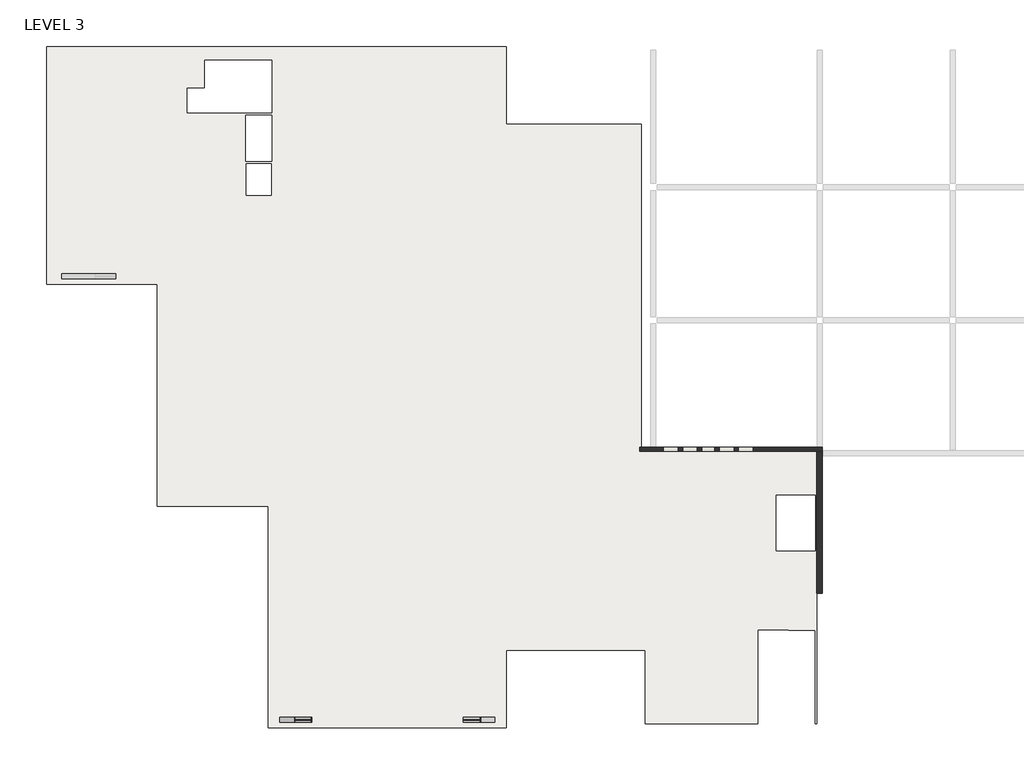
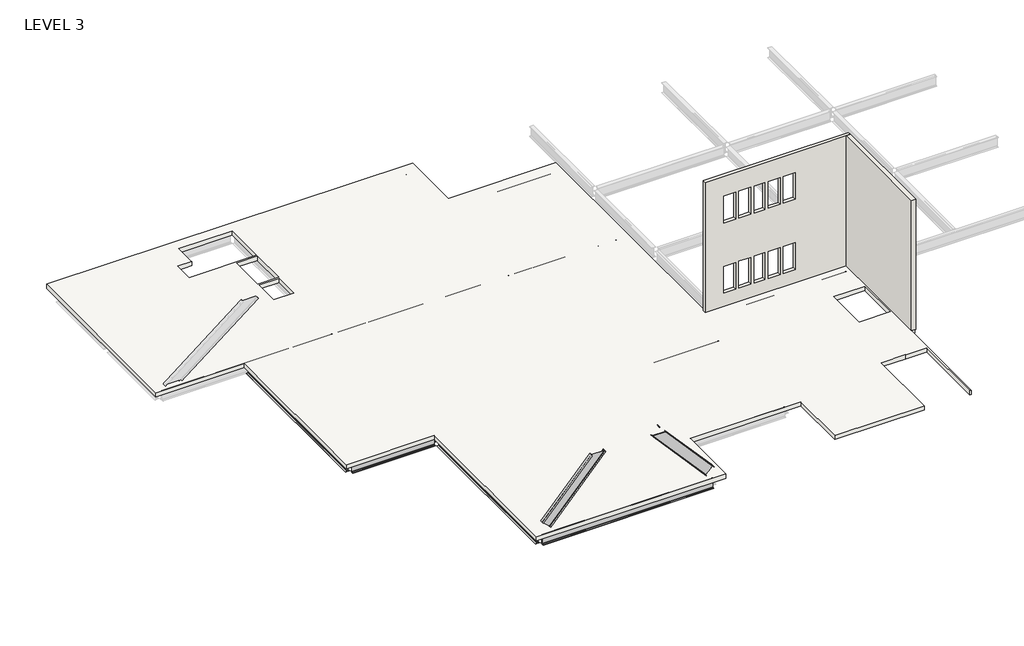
# One storey, part 1 of 2: 6 beams, 2 members, 2 walls, 1 slab.
"""IFC4 building model written with IfcOpenShell, lengths in millimetres."""

from ifc_helpers import new_model, si_unit, frame, origin, place, context, project, spatial, polyline, circle_curve, ellipse_curve, outline, extrude, faceted_brep, transform, mapped, element, save
from ifc_brep_helpers import plane_surface, revolved_surface, advanced_brep
from components import w_wide_flange_w24x68_ad03e389, w_wide_flange_w24x68_ff5f66c1, w_wide_flange_w24x68_64a19b5f, w_wide_flange_w24x68_a18b2e65, w_wide_flange_w24x68_69d7365b

model = new_model("IFC4")

# Units and contexts
model_context = context("Model", 3, world=origin())
ifc_project = project(units=[si_unit("LENGTHUNIT", "METRE", prefix="MILLI")], contexts=[model_context])

# Site, building, storey
site = spatial("IfcSite", under=ifc_project)
building = spatial("IfcBuilding", under=site)
storey = spatial("IfcBuildingStorey", under=building, Name="LEVEL 3", Elevation=8534.4)

# Beams
placement = place(None, origin())
w_wide_flange_w24x68_shape = w_wide_flange_w24x68_ad03e389(model_context)
element("IfcBeam", 1, ObjectType="W-Wide Flange : W24X68", at=placement, inside=storey, context=model_context, shape_type="MappedRepresentation", body=[
    mapped(w_wide_flange_w24x68_shape, transform((-8663.0492735, -1062.2413682, 7979.41), x_axis=(0.0, -1.0, 0.0), y_axis=(1.0, 0.0, 0.0), z_axis=(0.0, 0.0, 1.0))),
])
w_wide_flange_w24x68_2_shape = w_wide_flange_w24x68_ff5f66c1(model_context)
element("IfcBeam", 2, ObjectType="W-Wide Flange : W24X68", at=placement, inside=storey, context=model_context, shape_type="MappedRepresentation", body=[
    mapped(w_wide_flange_w24x68_2_shape, transform((-11203.0492735, -6142.2413682, 7979.41), x_axis=(1.0, 0.0, 0.0), y_axis=(0.0, 1.0, 0.0), z_axis=(0.0, 0.0, 1.0))),
])
w_wide_flange_w24x68_3_shape = w_wide_flange_w24x68_64a19b5f(model_context)
element("IfcBeam", 3, ObjectType="W-Wide Flange : W24X68", at=placement, inside=storey, context=model_context, shape_type="MappedRepresentation", body=[
    mapped(w_wide_flange_w24x68_3_shape, transform((-8663.0492735, -11222.2413682, 7979.41), x_axis=(0.0, -1.0, 0.0), y_axis=(1.0, 0.0, 0.0), z_axis=(0.0, 0.0, 1.0))),
])
element("IfcBeam", 4, ObjectType="W-Wide Flange : W24X68", at=placement, inside=storey, context=model_context, shape_type="MappedRepresentation", body=[
    mapped(w_wide_flange_w24x68_3_shape, transform((-3583.0492735, -16302.2413682, 7979.41), x_axis=(1.0, 0.0, 0.0), y_axis=(0.0, 1.0, 0.0), z_axis=(0.0, 0.0, 1.0))),
])
w_wide_flange_w24x68_4_shape = w_wide_flange_w24x68_a18b2e65(model_context)
element("IfcBeam", 5, ObjectType="W-Wide Flange : W24X68", at=placement, inside=storey, context=model_context, shape_type="MappedRepresentation", body=[
    mapped(w_wide_flange_w24x68_4_shape, transform((-13743.0492735, -1062.2413682, 7979.41), x_axis=(0.0, 1.0, 0.0), y_axis=(-1.0, 0.0, 0.0), z_axis=(0.0, 0.0, 1.0))),
])
w_wide_flange_w24x68_5_shape = w_wide_flange_w24x68_69d7365b(model_context)
element("IfcBeam", 6, ObjectType="W-Wide Flange : W24X68", at=placement, inside=storey, context=model_context, shape_type="MappedRepresentation", body=[
    mapped(w_wide_flange_w24x68_5_shape, transform((-3595.7492735, -6142.2413682, 7979.41), x_axis=(1.0, 0.0, 0.0), y_axis=(0.0, 1.0, 0.0), z_axis=(0.0, 0.0, 1.0))),
])

# Members
element("IfcMember", 7, ObjectType="W-Wide Flange : W24X68", at=placement, inside=storey, context=model_context, shape_type="AdvancedBrep", body=[
    advanced_brep(
    [(-4894.7107022, -16188.3223682, 12127.2103227), (-4894.7107022, -16273.7298682, 12127.2103227), (-4900.6468695, -16291.2749285, 12132.5720222), (-4900.6468695, -16313.2078078, 12132.5720222), (-4894.7107022, -16330.7528682, 12127.2103227), (-4894.7107022, -16416.1603682, 12127.2103227), (-4883.6837991, -16416.1603682, 12117.2505392), (-4883.6837991, -16188.3223682, 12117.2505392), (-8065.1625923, -16188.3223682, 8617.0671587), (-8054.1356891, -16188.3223682, 8607.1073752), (-8054.1356891, -16416.1603682, 8607.1073752), (-8065.1625923, -16416.1603682, 8617.0671587), (-8065.1625923, -16330.7528682, 8617.0671587), (-8082.4097998, -16307.5118682, 8632.6452816), (-8472.5925273, -16307.5118682, 8985.0683903), (-8489.8397349, -16330.7528682, 9000.6465133), (-8489.8397349, -16416.1603682, 9000.6465133), (-8500.866638, -16416.1603682, 9010.6062968), (-8500.866638, -16188.3223682, 9010.6062968), (-8489.8397349, -16188.3223682, 9000.6465133), (-8489.8397349, -16273.7298682, 9000.6465133), (-8472.5925273, -16296.9708682, 8985.0683903), (-8082.4097998, -16296.9708682, 8632.6452816), (-8065.1625923, -16273.7298682, 8617.0671587), (-4921.185647, -16296.9708682, 12132.5720222), (-5629.6860211, -16296.9708682, 12132.5720222), (-5661.0037913, -16273.7298682, 12132.5720222), (-5661.0037913, -16188.3223682, 12132.5720222), (-5681.0266279, -16188.3223682, 12132.5720222), (-5681.0266279, -16416.1603682, 12132.5720222), (-5661.0037913, -16416.1603682, 12132.5720222), (-5661.0037913, -16330.7528682, 12132.5720222), (-5629.6860211, -16307.5118682, 12132.5720222), (-4921.185647, -16307.5118682, 12132.5720222)],
    [
        (0, 1),
        (1, 2, circle_curve(frame((-4911.9579097, -16273.7298682, 12142.7884456), z_axis=(-0.6702862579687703, 0.0, -0.7421026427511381), x_axis=(0.0, -1.0000000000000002, 0.0)), 23.241)),
        (2, 3),
        (3, 4, circle_curve(frame((-4911.9579097, -16330.7528682, 12142.7884456), z_axis=(-0.6702862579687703, 0.0, -0.7421026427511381), x_axis=(0.0, -1.0000000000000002, 0.0)), 23.241)),
        (4, 5),
        (5, 6),
        (6, 7),
        (7, 0),
        (8, 9),
        (9, 10),
        (10, 11),
        (11, 12),
        (12, 13, circle_curve(frame((-8082.4097998, -16330.7528682, 8632.6452816), z_axis=(0.6702862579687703, 0.0, 0.7421026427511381), x_axis=(0.0, -1.0000000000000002, 0.0)), 23.241)),
        (13, 14),
        (14, 15, circle_curve(frame((-8472.5925273, -16330.7528682, 8985.0683903), z_axis=(0.6702862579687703, 0.0, 0.7421026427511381), x_axis=(0.0, -1.0000000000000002, 0.0)), 23.241)),
        (15, 16),
        (16, 17),
        (17, 18),
        (18, 19),
        (19, 20),
        (20, 21, circle_curve(frame((-8472.5925273, -16273.7298682, 8985.0683903), z_axis=(0.6702862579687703, 0.0, 0.7421026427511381), x_axis=(0.0, -1.0000000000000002, 0.0)), 23.241)),
        (21, 22),
        (22, 23, circle_curve(frame((-8082.4097998, -16273.7298682, 8632.6452816), z_axis=(0.6702862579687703, 0.0, 0.7421026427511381), x_axis=(0.0, -1.0000000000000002, 0.0)), 23.241)),
        (23, 8),
        (0, 8),
        (23, 1),
        (22, 24),
        (24, 2, ellipse_curve(frame((-4921.185647, -16273.7298682, 12132.5720222), z_axis=(0.0, 0.0, 1.0), x_axis=(-1.0, 0.0, 0.0)), 31.3177702, 23.241)),
        (21, 25),
        (25, 24),
        (20, 26),
        (26, 25, ellipse_curve(frame((-5629.6860211, -16273.7298682, 12132.5720222), z_axis=(0.0, 0.0, 1.0), x_axis=(-1.0, 0.0, 0.0)), 31.3177702, 23.241)),
        (19, 27),
        (27, 26),
        (18, 28),
        (28, 27),
        (17, 29),
        (29, 28),
        (16, 30),
        (30, 29),
        (15, 31),
        (31, 30),
        (14, 32),
        (32, 31, ellipse_curve(frame((-5629.6860211, -16330.7528682, 12132.5720222), z_axis=(0.0, 0.0, 1.0), x_axis=(-1.0, 0.0, 0.0)), 31.3177702, 23.241)),
        (13, 33),
        (33, 32),
        (12, 4),
        (3, 33, ellipse_curve(frame((-4921.185647, -16330.7528682, 12132.5720222), z_axis=(0.0, 0.0, 1.0), x_axis=(-1.0, 0.0, 0.0)), 31.3177702, 23.241)),
        (11, 5),
        (10, 6),
        (9, 7),
    ],
    [
        plane_surface(frame((-5107.0492735, -16302.2413682, 12319.0), z_axis=(0.6702862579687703, 0.0, 0.7421026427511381), x_axis=(-0.7421026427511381, 0.0, 0.6702862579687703))),
        plane_surface(frame((-8277.5011636, -16302.2413682, 8808.856836), z_axis=(-0.6702862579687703, 0.0, -0.7421026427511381), x_axis=(-0.7421026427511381, 0.0, 0.6702862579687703))),
        plane_surface(frame((-4894.7107022, -16188.3223682, 12127.2103227), z_axis=(-0.7421026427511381, 0.0, 0.6702862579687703), x_axis=(-0.6702862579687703, 0.0, -0.7421026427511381))),
        revolved_surface(polyline([(-8082.409799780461, -16296.9708682, 8632.645281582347), (-4907.115084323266, -16296.9708682, 12148.15014512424)]), (-4911.9579097, -16273.7298682, 12142.7884456), (-0.6702862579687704, 0.0, -0.7421026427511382)),
        plane_surface(frame((-4911.9579097, -16296.9708682, 12142.7884456), z_axis=(0.0, 1.0000000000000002, 0.0), x_axis=(-0.6702862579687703, 0.0, -0.7421026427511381))),
        revolved_surface(polyline([(-8472.592527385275, -16296.9708682, 8985.06839037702), (-5615.615458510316, -16296.9708682, 12148.150145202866)]), (-5302.1406373, -16273.7298682, 12495.2115544), (-0.6702862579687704, 0.0, -0.7421026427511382)),
        plane_surface(frame((-5319.3878448, -16273.7298682, 12510.7896773), z_axis=(0.7421026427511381, 0.0, -0.6702862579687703), x_axis=(-0.6702862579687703, 0.0, -0.7421026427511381))),
        plane_surface(frame((-5319.3878448, -16188.3223682, 12510.7896773), z_axis=(0.0, 1.0000000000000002, 0.0), x_axis=(-0.6702862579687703, 0.0, -0.7421026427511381))),
        plane_surface(frame((-5330.4147479, -16188.3223682, 12520.7494608), z_axis=(-0.7421026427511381, 0.0, 0.6702862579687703), x_axis=(-0.6702862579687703, 0.0, -0.7421026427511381))),
        plane_surface(frame((-5330.4147479, -16416.1603682, 12520.7494608), z_axis=(0.0, -1.0000000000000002, 0.0), x_axis=(-0.6702862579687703, 0.0, -0.7421026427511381))),
        plane_surface(frame((-5319.3878448, -16416.1603682, 12510.7896773), z_axis=(0.7421026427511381, 0.0, -0.6702862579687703), x_axis=(-0.6702862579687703, 0.0, -0.7421026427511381))),
        revolved_surface(polyline([(-8472.592527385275, -16353.9938682, 8985.06839037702), (-5615.615458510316, -16353.9938682, 12148.150145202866)]), (-5302.1406373, -16330.7528682, 12495.2115544), (-0.6702862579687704, 0.0, -0.7421026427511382)),
        plane_surface(frame((-5302.1406373, -16307.5118682, 12495.2115544), z_axis=(0.0, -1.0000000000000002, 0.0), x_axis=(-0.6702862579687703, 0.0, -0.7421026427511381))),
        revolved_surface(polyline([(-8082.409799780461, -16353.9938682, 8632.645281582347), (-4907.115084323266, -16353.9938682, 12148.15014512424)]), (-4911.9579097, -16330.7528682, 12142.7884456), (-0.6702862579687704, 0.0, -0.7421026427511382)),
        plane_surface(frame((-4894.7107022, -16330.7528682, 12127.2103227), z_axis=(-0.7421026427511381, 0.0, 0.6702862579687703), x_axis=(-0.6702862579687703, 0.0, -0.7421026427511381))),
        plane_surface(frame((-4894.7107022, -16416.1603682, 12127.2103227), z_axis=(0.0, -1.0000000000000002, 0.0), x_axis=(-0.6702862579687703, 0.0, -0.7421026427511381))),
        plane_surface(frame((-4883.6837991, -16416.1603682, 12117.2505392), z_axis=(0.7421026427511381, 0.0, -0.6702862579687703), x_axis=(-0.6702862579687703, 0.0, -0.7421026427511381))),
        plane_surface(frame((-4883.6837991, -16188.3223682, 12117.2505392), z_axis=(0.0, 1.0000000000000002, 0.0), x_axis=(-0.6702862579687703, 0.0, -0.7421026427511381))),
        plane_surface(frame((-5871.7833938, -21607.437406, 12132.5720222), z_axis=(0.0, 0.0, 1.0), x_axis=(0.0, 1.0, 0.0))),
    ],
    [
        (0, [[1, 2, 3, 4, 5, 6, 7, 8]]),
        (1, [[9, 10, 11, 12, 13, 14, 15, 16, 17, 18, 19, 20, 21, 22, 23, 24]]),
        (2, [[-1, 25, -24, 26]]),
        (3, [[-23, 27, 28, -2, -26]]),
        (4, [[-22, 29, 30, -27]]),
        (5, [[-21, 31, 32, -29]]),
        (6, [[-20, 33, 34, -31]]),
        (7, [[-19, 35, 36, -33]]),
        (8, [[-18, 37, 38, -35]]),
        (9, [[-17, 39, 40, -37]]),
        (10, [[-16, 41, 42, -39]]),
        (11, [[-15, 43, 44, -41]]),
        (12, [[-14, 45, 46, -43]]),
        (13, [[-13, 47, -4, 48, -45]]),
        (14, [[-5, -47, -12, 49]]),
        (15, [[-6, -49, -11, 50]]),
        (16, [[-7, -50, -10, 51]]),
        (17, [[-8, -51, -9, -25]]),
        (18, [[-3, -28, -30, -32, -34, -36, -38, -40, -42, -44, -46, -48]]),
    ],
),
])
element("IfcMember", 8, ObjectType="W-Wide Flange : W24X68", at=placement, inside=storey, context=model_context, shape_type="AdvancedBrep", body=[
    advanced_brep(
    [(-1801.0656385, -16188.3223682, 12509.4582261), (-1801.0656385, -16273.7298682, 12509.4582261), (-1809.3662665, -16293.5614209, 12502.0546014), (-1809.3662665, -16310.9213155, 12502.0546014), (-1801.0656385, -16330.7528682, 12509.4582261), (-1801.0656385, -16416.1603682, 12509.4582261), (-1789.9766747, -16416.1603682, 12519.3488663), (-1789.9766747, -16188.3223682, 12519.3488663), (-1794.3784936, -16273.7298682, 12501.9608846), (-1794.3784936, -16188.3223682, 12501.9608846), (-1774.3560484, -16188.3223682, 12501.8356867), (-1774.3560484, -16416.1603682, 12501.8356867), (-1794.3784936, -16416.1603682, 12501.9608846), (-1794.3784936, -16330.7528682, 12501.9608846)],
    [
        (0, 1),
        (1, 2, circle_curve(frame((-1818.4099151, -16273.7298682, 12493.9882503), z_axis=(0.6656329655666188, 0.0, -0.7462792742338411), x_axis=(0.0, -1.0000000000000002, 0.0)), 23.241)),
        (2, 3),
        (3, 4, circle_curve(frame((-1818.4099151, -16330.7528682, 12493.9882503), z_axis=(0.6656329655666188, 0.0, -0.7462792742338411), x_axis=(0.0, -1.0000000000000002, 0.0)), 23.241)),
        (4, 5),
        (5, 6),
        (6, 7),
        (7, 0),
        (1, 8),
        (8, 2, ellipse_curve(frame((-1825.6956516, -16273.7298682, 12502.1567071), z_axis=(-0.006252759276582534, 0.0, -0.999980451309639), x_axis=(0.9999804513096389, 0.0, -0.006252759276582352)), 31.3177702, 23.241)),
        (0, 9),
        (9, 8),
        (7, 10),
        (10, 9),
        (6, 11),
        (11, 10),
        (5, 12),
        (12, 11),
        (4, 13),
        (13, 12),
        (3, 13, ellipse_curve(frame((-1825.6956516, -16330.7528682, 12502.1567071), z_axis=(-0.006252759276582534, 0.0, -0.999980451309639), x_axis=(0.9999804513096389, 0.0, -0.006252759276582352)), 31.3177702, 23.241)),
    ],
    [
        plane_surface(frame((-2014.5992735, -16302.2413682, 12319.0), z_axis=(-0.6656329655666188, 0.0, 0.7462792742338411), x_axis=(0.7462792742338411, 0.0, 0.6656329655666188))),
        revolved_surface(polyline([(-1811.7227702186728, -16296.9708682, 12486.490908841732), (-1839.6685329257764, -16296.9708682, 12517.822505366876)]), (-1818.4099151, -16273.7298682, 12493.9882503), (0.6656329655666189, 0.0, -0.7462792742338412)),
        plane_surface(frame((-1801.0656385, -16273.7298682, 12509.4582261), z_axis=(-0.7462792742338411, 0.0, -0.6656329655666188), x_axis=(0.6656329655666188, 0.0, -0.7462792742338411))),
        plane_surface(frame((-1801.0656385, -16188.3223682, 12509.4582261), z_axis=(0.0, 1.0, 0.0), x_axis=(0.6656329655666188, 0.0, -0.7462792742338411))),
        plane_surface(frame((-1789.9766747, -16188.3223682, 12519.3488663), z_axis=(0.7462792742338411, 0.0, 0.6656329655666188), x_axis=(0.6656329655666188, 0.0, -0.7462792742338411))),
        plane_surface(frame((-1789.9766747, -16416.1603682, 12519.3488663), z_axis=(0.0, -1.0, 0.0), x_axis=(0.6656329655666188, 0.0, -0.7462792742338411))),
        plane_surface(frame((-1801.0656385, -16416.1603682, 12509.4582261), z_axis=(-0.7462792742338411, 0.0, -0.6656329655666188), x_axis=(0.6656329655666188, 0.0, -0.7462792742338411))),
        revolved_surface(polyline([(-1811.7227702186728, -16353.9938682, 12486.490908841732), (-1839.6685329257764, -16353.9938682, 12517.822505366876)]), (-1818.4099151, -16330.7528682, 12493.9882503), (0.6656329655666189, 0.0, -0.7462792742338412)),
        plane_surface(frame((-2377.9583795, -11026.7364253, 12505.6099405), z_axis=(-0.006252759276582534, 0.0, -0.999980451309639), x_axis=(0.0, -1.0, 0.0))),
    ],
    [
        (0, [[1, 2, 3, 4, 5, 6, 7, 8]]),
        (1, [[-2, 9, 10]]),
        (2, [[-1, 11, 12, -9]]),
        (3, [[-8, 13, 14, -11]]),
        (4, [[-7, 15, 16, -13]]),
        (5, [[-6, 17, 18, -15]]),
        (6, [[-5, 19, 20, -17]]),
        (7, [[-4, 21, -19]]),
        (8, [[-3, -10, -12, -14, -16, -18, -20, -21]]),
    ],
),
    advanced_brep(
    [(886.8519903, -16188.3223682, 8613.8305283), (897.9409541, -16188.3223682, 8623.7211685), (897.9409541, -16273.7298682, 8623.7211685), (915.2852307, -16296.9708682, 8639.1911443), (1197.1163494, -16296.9708682, 8890.5663195), (1197.1163494, -16307.5118682, 8890.5663195), (915.2852307, -16307.5118682, 8639.1911443), (897.9409541, -16330.7528682, 8623.7211685), (897.9409541, -16416.1603682, 8623.7211685), (886.8519903, -16416.1603682, 8613.8305283), (1325.0082241, -16330.7528682, 9004.6376206), (1307.6639475, -16307.5118682, 8989.1676449), (1278.9679661, -16307.5118682, 8963.5726809), (1278.9679661, -16296.9708682, 8963.5726809), (1307.6639475, -16296.9708682, 8989.1676449), (1325.0082241, -16273.7298682, 9004.6376206), (1325.0082241, -16188.3223682, 9004.6376206), (1336.0971878, -16188.3223682, 9014.5282609), (1336.0971878, -16416.1603682, 9014.5282609), (1325.0082241, -16416.1603682, 9004.6376206), (-2149.7156622, -16188.3223682, 12040.6237039), (-2149.7156622, -16273.7298682, 12040.6237039), (-2118.3985042, -16296.9708682, 12040.4278814), (-1409.9119804, -16296.9708682, 12035.9977991), (1197.645044, -16296.9708682, 8975.1184736), (-1378.5948225, -16273.7298682, 12035.8019766), (-1378.5948225, -16188.3223682, 12035.8019766), (-1358.5723772, -16188.3223682, 12035.6767787), (-1358.5723772, -16416.1603682, 12035.6767787), (-1378.5948225, -16416.1603682, 12035.8019766), (-1378.5948225, -16330.7528682, 12035.8019766), (-1409.9119804, -16307.5118682, 12035.9977991), (-2118.3985042, -16307.5118682, 12040.4278814), (1197.645044, -16307.5118682, 8975.1184736), (-2149.7156622, -16330.7528682, 12040.6237039), (-2149.7156622, -16416.1603682, 12040.6237039), (-2169.7381074, -16416.1603682, 12040.7489019), (-2169.7381074, -16188.3223682, 12040.7489019)],
    [
        (0, 1),
        (1, 2),
        (2, 3, circle_curve(frame((915.2852307, -16273.7298682, 8639.1911443), z_axis=(-0.6656329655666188, 0.0, 0.7462792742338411), x_axis=(0.0, -1.0000000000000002, 0.0)), 23.241)),
        (3, 4),
        (4, 5),
        (5, 6),
        (6, 7, circle_curve(frame((915.2852307, -16330.7528682, 8639.1911443), z_axis=(-0.6656329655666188, 0.0, 0.7462792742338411), x_axis=(0.0, -1.0000000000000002, 0.0)), 23.241)),
        (7, 8),
        (8, 9),
        (9, 0),
        (10, 11, circle_curve(frame((1307.6639475, -16330.7528682, 8989.1676449), z_axis=(-0.6656329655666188, 0.0, 0.7462792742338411), x_axis=(0.0, -1.0000000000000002, 0.0)), 23.241)),
        (11, 12),
        (12, 13),
        (13, 14),
        (14, 15, circle_curve(frame((1307.6639475, -16273.7298682, 8989.1676449), z_axis=(-0.6656329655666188, 0.0, 0.7462792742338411), x_axis=(0.0, -1.0000000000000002, 0.0)), 23.241)),
        (15, 16),
        (16, 17),
        (17, 18),
        (18, 19),
        (19, 10),
        (1, 20),
        (20, 21),
        (21, 2),
        (21, 22, ellipse_curve(frame((-2118.3985042, -16273.7298682, 12040.4278814), z_axis=(0.006252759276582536, 0.0, 0.999980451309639), x_axis=(0.9999804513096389, 0.0, -0.006252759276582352)), 31.3177702, 23.241)),
        (22, 3),
        (22, 23),
        (23, 14),
        (13, 24),
        (24, 4),
        (23, 25, ellipse_curve(frame((-1409.9119804, -16273.7298682, 12035.9977991), z_axis=(0.006252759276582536, 0.0, 0.999980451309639), x_axis=(0.9999804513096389, 0.0, -0.006252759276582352)), 31.3177702, 23.241)),
        (25, 15),
        (25, 26),
        (26, 16),
        (26, 27),
        (27, 17),
        (27, 28),
        (28, 18),
        (28, 29),
        (29, 19),
        (29, 30),
        (30, 10),
        (30, 31, ellipse_curve(frame((-1409.9119804, -16330.7528682, 12035.9977991), z_axis=(0.006252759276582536, 0.0, 0.999980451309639), x_axis=(0.9999804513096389, 0.0, -0.006252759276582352)), 31.3177702, 23.241)),
        (31, 11),
        (31, 32),
        (32, 6),
        (5, 33),
        (33, 12),
        (32, 34, ellipse_curve(frame((-2118.3985042, -16330.7528682, 12040.4278814), z_axis=(0.006252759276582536, 0.0, 0.999980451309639), x_axis=(0.9999804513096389, 0.0, -0.006252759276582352)), 31.3177702, 23.241)),
        (34, 7),
        (34, 35),
        (35, 8),
        (35, 36),
        (36, 9),
        (36, 37),
        (37, 0),
        (37, 20),
        (33, 24),
    ],
    [
        plane_surface(frame((1111.4745891, -16302.2413682, 8814.1793946), z_axis=(0.6656329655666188, 0.0, -0.7462792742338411), x_axis=(0.7462792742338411, 0.0, 0.6656329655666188))),
        plane_surface(frame((-2228.1329085, -16188.3223682, 12128.5417739), z_axis=(0.7462792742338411, 0.0, 0.6656329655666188), x_axis=(0.6656329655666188, 0.0, -0.7462792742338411))),
        revolved_surface(polyline([(915.2852307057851, -16296.9708682, 8639.19114424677), (-2132.371385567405, -16296.9708682, 12056.093679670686)]), (-2210.7886319, -16273.7298682, 12144.0117497), (0.6656329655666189, 0.0, -0.7462792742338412)),
        plane_surface(frame((-2210.7886319, -16296.9708682, 12144.0117497), z_axis=(0.0, 1.0, 0.0), x_axis=(0.6656329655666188, 0.0, -0.7462792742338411))),
        revolved_surface(polyline([(1307.6639474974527, -16296.9708682, 8989.167644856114), (-1423.884861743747, -16296.9708682, 12051.663597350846)]), (-1818.4099151, -16273.7298682, 12493.9882503), (0.6656329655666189, 0.0, -0.7462792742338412)),
        plane_surface(frame((-1801.0656385, -16273.7298682, 12509.4582261), z_axis=(-0.7462792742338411, 0.0, -0.6656329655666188), x_axis=(0.6656329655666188, 0.0, -0.7462792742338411))),
        plane_surface(frame((-1801.0656385, -16188.3223682, 12509.4582261), z_axis=(0.0, 1.0, 0.0), x_axis=(0.6656329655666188, 0.0, -0.7462792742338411))),
        plane_surface(frame((-1789.9766747, -16188.3223682, 12519.3488663), z_axis=(0.7462792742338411, 0.0, 0.6656329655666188), x_axis=(0.6656329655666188, 0.0, -0.7462792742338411))),
        plane_surface(frame((-1789.9766747, -16416.1603682, 12519.3488663), z_axis=(0.0, -1.0, 0.0), x_axis=(0.6656329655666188, 0.0, -0.7462792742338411))),
        plane_surface(frame((-1801.0656385, -16416.1603682, 12509.4582261), z_axis=(-0.7462792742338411, 0.0, -0.6656329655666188), x_axis=(0.6656329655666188, 0.0, -0.7462792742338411))),
        revolved_surface(polyline([(1307.6639474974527, -16353.9938682, 8989.167644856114), (-1423.884861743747, -16353.9938682, 12051.663597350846)]), (-1818.4099151, -16330.7528682, 12493.9882503), (0.6656329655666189, 0.0, -0.7462792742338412)),
        plane_surface(frame((-1818.4099151, -16307.5118682, 12493.9882503), z_axis=(0.0, -1.0, 0.0), x_axis=(0.6656329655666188, 0.0, -0.7462792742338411))),
        revolved_surface(polyline([(915.2852307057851, -16353.9938682, 8639.19114424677), (-2132.371385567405, -16353.9938682, 12056.093679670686)]), (-2210.7886319, -16330.7528682, 12144.0117497), (0.6656329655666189, 0.0, -0.7462792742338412)),
        plane_surface(frame((-2228.1329085, -16330.7528682, 12128.5417739), z_axis=(0.7462792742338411, 0.0, 0.6656329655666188), x_axis=(0.6656329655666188, 0.0, -0.7462792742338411))),
        plane_surface(frame((-2228.1329085, -16416.1603682, 12128.5417739), z_axis=(0.0, -1.0, 0.0), x_axis=(0.6656329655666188, 0.0, -0.7462792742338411))),
        plane_surface(frame((-2239.2218723, -16416.1603682, 12118.6511337), z_axis=(-0.7462792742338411, 0.0, -0.6656329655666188), x_axis=(0.6656329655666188, 0.0, -0.7462792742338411))),
        plane_surface(frame((-2239.2218723, -16188.3223682, 12118.6511337), z_axis=(0.0, 1.0, 0.0), x_axis=(0.6656329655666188, 0.0, -0.7462792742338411))),
        plane_surface(frame((1197.645044, -11026.7364253, 8975.1184736), z_axis=(-0.1405650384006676, 0.0, -0.9900714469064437), x_axis=(0.0, -1.0, 0.0))),
        plane_surface(frame((1194.6243291, -11026.7364253, 8492.0268206), z_axis=(0.9999804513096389, 0.0, -0.006252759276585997), x_axis=(0.0, -1.0, 0.0))),
        plane_surface(frame((-1354.3532319, -11026.7364253, 12035.6503968), z_axis=(0.006252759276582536, 0.0, 0.999980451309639), x_axis=(0.0, -1.0, 0.0))),
    ],
    [
        (0, [[1, 2, 3, 4, 5, 6, 7, 8, 9, 10]]),
        (0, [[11, 12, 13, 14, 15, 16, 17, 18, 19, 20]]),
        (1, [[-2, 21, 22, 23]]),
        (2, [[-3, -23, 24, 25]]),
        (3, [[-25, 26, 27, -14, 28, 29, -4]]),
        (4, [[-15, -27, 30, 31]]),
        (5, [[-16, -31, 32, 33]]),
        (6, [[-17, -33, 34, 35]]),
        (7, [[-18, -35, 36, 37]]),
        (8, [[-19, -37, 38, 39]]),
        (9, [[-20, -39, 40, 41]]),
        (10, [[-11, -41, 42, 43]]),
        (11, [[-43, 44, 45, -6, 46, 47, -12]]),
        (12, [[-7, -45, 48, 49]]),
        (13, [[-8, -49, 50, 51]]),
        (14, [[-9, -51, 52, 53]]),
        (15, [[-10, -53, 54, 55]]),
        (16, [[-1, -55, 56, -21]]),
        (17, [[57, -28, -13, -47]]),
        (18, [[-57, -46, -5, -29]]),
        (19, [[-22, -56, -54, -52, -50, -48, -44, -42, -40, -38, -36, -34, -32, -30, -26, -24]]),
    ],
),
])

# Slab
element("IfcSlab", 9, ObjectType="6\" LW Concrete on 4\" Metal Deck", at=placement, inside=storey, context=model_context, shape_type="SweptSolid", body=[
    extrude(outline(polyline([(1865.2507265, 10990.0586318), (8062.8507265, 10990.0586318), (8062.8507265, -3805.4413682), (16346.2220917, -3805.4413682), (16346.2220917, -10431.6663682), (16101.7470917, -10431.6663682), (16101.7470917, -16476.8663682), (16025.5470917, -16476.8663682), (16025.5470917, -12191.8635119), (14819.0470917, -12191.8635119), (14819.0470917, -12160.1135119), (13383.9470917, -12160.1135119), (13383.9470917, -16476.8663682), (8240.3224466, -16476.8663682), (8240.3224466, -13114.5413682), (1865.2507265, -13114.5413682), (1865.2507265, -16670.5413682), (-9031.3492735, -16670.5413682), (-9031.3492735, -6510.5413682), (-14111.3492735, -6510.5413682), (-14111.3492735, 3649.4586318), (-19191.3492735, 3649.4586318), (-19191.3492735, 14546.0586318), (1865.2507265, 14546.0586318), (1865.2507265, 10990.0586318)]), holes=[polyline([(-8878.9492735, 11507.5836318), (-8878.9492735, 13920.5836318), (-11937.8838599, 13920.5836318), (-11937.8838599, 12625.1836318), (-12744.3338599, 12625.1836318), (-12744.3338599, 11507.5836318), (-8878.9492735, 11507.5836318)]), polyline([(-8878.9492735, 9285.0836318), (-8878.9492735, 11405.9836318), (-10072.9529083, 11405.9836318), (-10072.9529083, 9285.0836318), (-8878.9492735, 9285.0836318)]), polyline([(-8904.5529083, 7740.7636318), (-8904.5529083, 9183.4836318), (-10047.5529083, 9183.4836318), (-10047.5529083, 7740.7636318), (-8904.5529083, 7740.7636318)]), polyline([(16025.5470917, -8555.2413682), (16025.5470917, -6008.8913682), (14241.1970917, -6008.8913682), (14241.1970917, -8555.2413682), (16025.5470917, -8555.2413682)])]), frame((0.0, 0.0, 8280.4), z_axis=(0.0, 0.0, 1.0), x_axis=(1.0, 0.0, 0.0)), (0.0, 0.0, 1.0), 254.0),
])

# Walls
element("IfcWall", 10, ObjectType="CMU_10\" - BIM-M", at=placement, inside=storey, context=model_context, shape_type="Brep", body=[
    faceted_brep([(16101.7470917, -3999.1163682, 8534.4), (16101.7470917, -10380.8663682, 8534.4), (16101.7470917, -10503.1038682, 8534.4), (16101.7470917, -10503.1038682, 16459.2), (16101.7470917, -3999.1163682, 16459.2), (16346.2220917, -3999.1163682, 8534.4), (16346.2220917, -3999.1163682, 16459.2), (16346.2220917, -10503.1038682, 16459.2), (16346.2220917, -10503.1038682, 8534.4), (16346.2220917, -10380.8663682, 8534.4)], [[[0, 1, 2, 3, 4]], [[5, 6, 7, 8, 9]], [[2, 1, 0, 5, 9, 8]], [[3, 2, 8, 7]], [[4, 3, 7, 6]], [[0, 4, 6, 5]]]),
])
element("IfcWall", 11, ObjectType="CMU_8\" - BIM-M", at=placement, inside=storey, context=model_context, shape_type="Brep", body=[
    faceted_brep([(7991.4132265, -3999.1163682, 8534.4), (16101.7470917, -3999.1163682, 8534.4), (16346.2220917, -3999.1163682, 8534.4), (16346.2220917, -3999.1163682, 16459.2), (16101.7470917, -3999.1163682, 16459.2), (7991.4132265, -3999.1163682, 16459.2), (9066.0489091, -3999.1163682, 10972.8), (9751.8489091, -3999.1163682, 10972.8), (9751.8489091, -3999.1163682, 9347.2), (9066.0489091, -3999.1163682, 9347.2), (9942.3489091, -3999.1163682, 10972.8), (10628.1489091, -3999.1163682, 10972.8), (10628.1489091, -3999.1163682, 9347.2), (9942.3489091, -3999.1163682, 9347.2), (10818.6489091, -3999.1163682, 10972.8), (11428.2489091, -3999.1163682, 10972.8), (11428.2489091, -3999.1163682, 9347.2), (10818.6489091, -3999.1163682, 9347.2), (11618.7489091, -3999.1163682, 10972.8), (12304.5489091, -3999.1163682, 10972.8), (12304.5489091, -3999.1163682, 9347.2), (11618.7489091, -3999.1163682, 9347.2), (12495.0489091, -3999.1163682, 10972.8), (13180.8489091, -3999.1163682, 10972.8), (13180.8489091, -3999.1163682, 9347.2), (12495.0489091, -3999.1163682, 9347.2), (9066.0489091, -3999.1163682, 15240.0), (9751.8489091, -3999.1163682, 15240.0), (9751.8489091, -3999.1163682, 13614.4), (9066.0489091, -3999.1163682, 13614.4), (9942.3489091, -3999.1163682, 15240.0), (10628.1489091, -3999.1163682, 15240.0), (10628.1489091, -3999.1163682, 13614.4), (9942.3489091, -3999.1163682, 13614.4), (10818.6489091, -3999.1163682, 15240.0), (11428.2489091, -3999.1163682, 15240.0), (11428.2489091, -3999.1163682, 13614.4), (10818.6489091, -3999.1163682, 13614.4), (11618.7489091, -3999.1163682, 15240.0), (12304.5489091, -3999.1163682, 15240.0), (12304.5489091, -3999.1163682, 13614.4), (11618.7489091, -3999.1163682, 13614.4), (12495.0489091, -3999.1163682, 15240.0), (13180.8489091, -3999.1163682, 15240.0), (13180.8489091, -3999.1163682, 13614.4), (12495.0489091, -3999.1163682, 13614.4), (16346.2220917, -3805.4413682, 8534.4), (7991.4132265, -3805.4413682, 8534.4), (7991.4132265, -3805.4413682, 16459.2), (16346.2220917, -3805.4413682, 16459.2), (9751.8489091, -3805.4413682, 10972.8), (9066.0489091, -3805.4413682, 10972.8), (9066.0489091, -3805.4413682, 9347.2), (9751.8489091, -3805.4413682, 9347.2), (10628.1489091, -3805.4413682, 10972.8), (9942.3489091, -3805.4413682, 10972.8), (9942.3489091, -3805.4413682, 9347.2), (10628.1489091, -3805.4413682, 9347.2), (11428.2489091, -3805.4413682, 10972.8), (10818.6489091, -3805.4413682, 10972.8), (10818.6489091, -3805.4413682, 9347.2), (11428.2489091, -3805.4413682, 9347.2), (12304.5489091, -3805.4413682, 10972.8), (11618.7489091, -3805.4413682, 10972.8), (11618.7489091, -3805.4413682, 9347.2), (12304.5489091, -3805.4413682, 9347.2), (13180.8489091, -3805.4413682, 10972.8), (12495.0489091, -3805.4413682, 10972.8), (12495.0489091, -3805.4413682, 9347.2), (13180.8489091, -3805.4413682, 9347.2), (9751.8489091, -3805.4413682, 15240.0), (9066.0489091, -3805.4413682, 15240.0), (9066.0489091, -3805.4413682, 13614.4), (9751.8489091, -3805.4413682, 13614.4), (10628.1489091, -3805.4413682, 15240.0), (9942.3489091, -3805.4413682, 15240.0), (9942.3489091, -3805.4413682, 13614.4), (10628.1489091, -3805.4413682, 13614.4), (11428.2489091, -3805.4413682, 15240.0), (10818.6489091, -3805.4413682, 15240.0), (10818.6489091, -3805.4413682, 13614.4), (11428.2489091, -3805.4413682, 13614.4), (12304.5489091, -3805.4413682, 15240.0), (11618.7489091, -3805.4413682, 15240.0), (11618.7489091, -3805.4413682, 13614.4), (12304.5489091, -3805.4413682, 13614.4), (13180.8489091, -3805.4413682, 15240.0), (12495.0489091, -3805.4413682, 15240.0), (12495.0489091, -3805.4413682, 13614.4), (13180.8489091, -3805.4413682, 13614.4)], [[[0, 1, 2, 3, 4, 5], [6, 7, 8, 9], [10, 11, 12, 13], [14, 15, 16, 17], [18, 19, 20, 21], [22, 23, 24, 25], [26, 27, 28, 29], [30, 31, 32, 33], [34, 35, 36, 37], [38, 39, 40, 41], [42, 43, 44, 45]], [[46, 47, 48, 49], [50, 51, 52, 53], [54, 55, 56, 57], [58, 59, 60, 61], [62, 63, 64, 65], [66, 67, 68, 69], [70, 71, 72, 73], [74, 75, 76, 77], [78, 79, 80, 81], [82, 83, 84, 85], [86, 87, 88, 89]], [[2, 1, 0, 47, 46]], [[5, 4, 3, 49, 48]], [[0, 5, 48, 47]], [[6, 51, 50, 7]], [[8, 53, 52, 9]], [[51, 6, 9, 52]], [[7, 50, 53, 8]], [[10, 55, 54, 11]], [[12, 57, 56, 13]], [[55, 10, 13, 56]], [[11, 54, 57, 12]], [[14, 59, 58, 15]], [[16, 61, 60, 17]], [[59, 14, 17, 60]], [[15, 58, 61, 16]], [[18, 63, 62, 19]], [[20, 65, 64, 21]], [[63, 18, 21, 64]], [[19, 62, 65, 20]], [[22, 67, 66, 23]], [[24, 69, 68, 25]], [[67, 22, 25, 68]], [[23, 66, 69, 24]], [[3, 2, 46, 49]], [[26, 71, 70, 27]], [[28, 73, 72, 29]], [[71, 26, 29, 72]], [[27, 70, 73, 28]], [[30, 75, 74, 31]], [[32, 77, 76, 33]], [[75, 30, 33, 76]], [[31, 74, 77, 32]], [[34, 79, 78, 35]], [[36, 81, 80, 37]], [[79, 34, 37, 80]], [[35, 78, 81, 36]], [[38, 83, 82, 39]], [[40, 85, 84, 41]], [[83, 38, 41, 84]], [[39, 82, 85, 40]], [[42, 87, 86, 43]], [[44, 89, 88, 45]], [[87, 42, 45, 88]], [[43, 86, 89, 44]]]),
])

save(model, "model.ifc")
